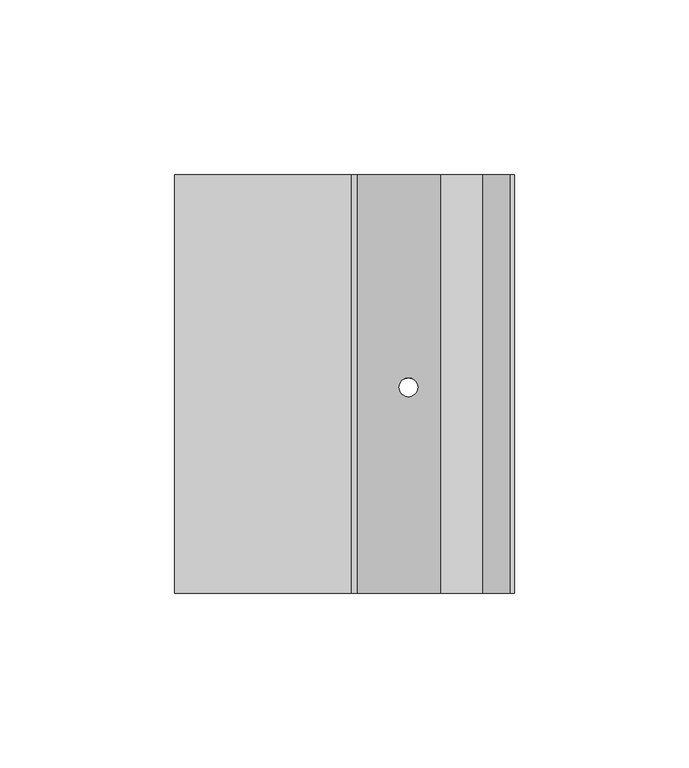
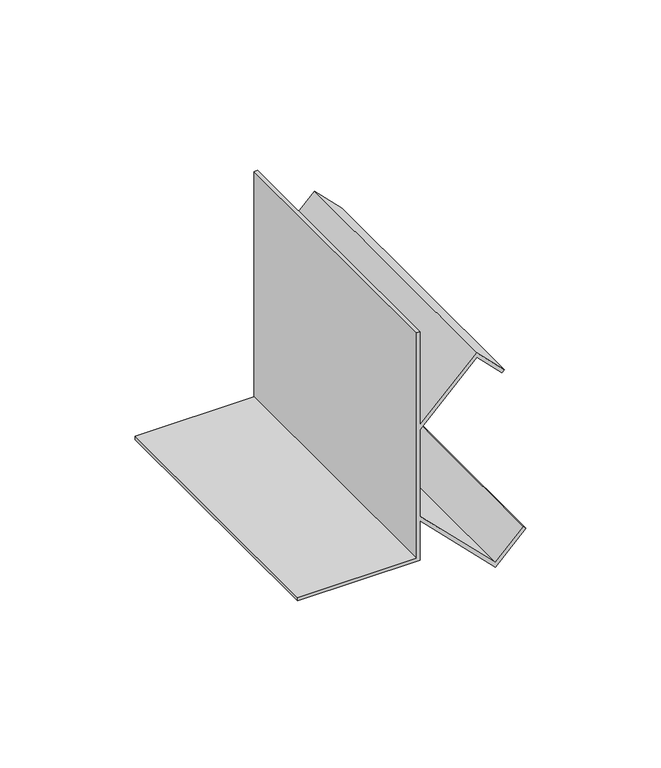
"""IFC4 building model written with IfcOpenShell, lengths in millimetres: proxy geometry, Mechanical Fittings & Accessories6 : Mechanical Fittings & Accessories."""

from ifc_helpers import new_model, si_unit, frame, origin, place, context, project, spatial, polyline, ellipse_curve, source, transform, mapped, element, save
from ifc_brep_helpers import plane_surface, revolved_surface, advanced_brep


def generic_models_b129b2ce(model_context):
    return source(origin(), model_context, "Body", "AdvancedBrep", [
        advanced_brep(
        [(-10977.7433312, 8294.4963986, 4114.8), (-11028.5433312, 8294.4963986, 4114.8), (-11028.5433312, 8294.4963986, 4113.3117188), (-10976.25505, 8294.4963986, 4113.3117188), (-10976.25505, 8294.4963986, 4131.1383509), (-10944.145289, 8294.4963986, 4099.0285899), (-10931.1663177, 8294.4963986, 4112.0075612), (-10932.2186914, 8294.4963986, 4113.059935), (-10944.145289, 8294.4963986, 4101.1333374), (-10976.25505, 8294.4963986, 4133.2430984), (-10976.25505, 8294.4963986, 4172.2761118), (-10952.082789, 8294.4963986, 4196.4483729), (-10941.3468164, 8294.4963986, 4185.7124003), (-10940.2944427, 8294.4963986, 4186.7647741), (-10952.082789, 8294.4963986, 4198.5531204), (-10976.25505, 8294.4963986, 4174.3808594), (-10976.25505, 8294.4963986, 4216.4), (-10977.7433312, 8294.4963986, 4216.4), (-10977.7433312, 8414.4645457, 4114.8), (-10977.7433312, 8414.4645457, 4216.4), (-10976.25505, 8414.4645457, 4216.4), (-10976.25505, 8414.4645457, 4174.3808594), (-10952.082789, 8414.4645457, 4198.5531204), (-10940.2944427, 8414.4645457, 4186.7647741), (-10941.3468164, 8414.4645457, 4185.7124003), (-10952.082789, 8414.4645457, 4196.4483729), (-10976.25505, 8414.4645457, 4172.2761118), (-10976.25505, 8414.4645457, 4133.2430984), (-10944.145289, 8414.4645457, 4101.1333374), (-10932.2186914, 8414.4645457, 4113.059935), (-10931.1663177, 8414.4645457, 4112.0075612), (-10944.145289, 8414.4645457, 4099.0285899), (-10976.25505, 8414.4645457, 4131.1383509), (-10976.25505, 8414.4645457, 4113.3117188), (-11028.5433312, 8414.4645457, 4113.3117188), (-11028.5433312, 8414.4645457, 4114.8), (-10964.1411396, 8353.5191481, 4119.0244406), (-10958.8017728, 8353.5191481, 4113.6850737), (-10958.8017728, 8353.5191481, 4115.7898213), (-10964.1411396, 8353.5191481, 4121.1291881), (-10964.1411396, 8353.5191481, 4184.3900222), (-10958.8017728, 8353.5191481, 4189.729389), (-10958.8017728, 8353.5191481, 4191.8341365), (-10964.1411396, 8353.5191481, 4186.4947697)],
        [
            (0, 1),
            (1, 2),
            (2, 3),
            (3, 4),
            (4, 5),
            (5, 6),
            (6, 7),
            (7, 8),
            (8, 9),
            (9, 10),
            (10, 11),
            (11, 12),
            (12, 13),
            (13, 14),
            (14, 15),
            (15, 16),
            (16, 17),
            (17, 0),
            (18, 19),
            (19, 20),
            (20, 21),
            (21, 22),
            (22, 23),
            (23, 24),
            (24, 25),
            (25, 26),
            (26, 27),
            (27, 28),
            (28, 29),
            (29, 30),
            (30, 31),
            (31, 32),
            (32, 33),
            (33, 34),
            (34, 35),
            (35, 18),
            (0, 18),
            (35, 1),
            (34, 2),
            (33, 3),
            (32, 4),
            (31, 5),
            (36, 37, ellipse_curve(frame((-10961.4714562, 8353.5191481, 4116.3547571), z_axis=(0.7071067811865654, 0.0, 0.7071067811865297), x_axis=(-0.7071067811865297, 0.0, 0.7071067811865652)), 3.7755025, 2.6696834)),
            (37, 36, ellipse_curve(frame((-10961.4714562, 8353.5191481, 4116.3547571), z_axis=(0.7071067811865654, 0.0, 0.7071067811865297), x_axis=(-0.7071067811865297, 0.0, 0.7071067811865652)), 3.7755025, 2.6696834)),
            (30, 6),
            (29, 7),
            (28, 8),
            (27, 9),
            (38, 39, ellipse_curve(frame((-10961.4714562, 8353.5191481, 4118.4595047), z_axis=(-0.7071067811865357, 0.0, -0.7071067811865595), x_axis=(-0.7071067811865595, 0.0, 0.7071067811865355)), 3.7755025, 2.6696834)),
            (39, 38, ellipse_curve(frame((-10961.4714562, 8353.5191481, 4118.4595047), z_axis=(-0.7071067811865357, 0.0, -0.7071067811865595), x_axis=(-0.7071067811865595, 0.0, 0.7071067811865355)), 3.7755025, 2.6696834)),
            (26, 10),
            (25, 11),
            (40, 41, ellipse_curve(frame((-10961.4714562, 8353.5191481, 4187.0597056), z_axis=(-0.7071067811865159, 0.0, 0.7071067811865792), x_axis=(0.7071067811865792, 0.0, 0.7071067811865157)), 3.7755025, 2.6696834)),
            (41, 40, ellipse_curve(frame((-10961.4714562, 8353.5191481, 4187.0597056), z_axis=(-0.7071067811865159, 0.0, 0.7071067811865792), x_axis=(0.7071067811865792, 0.0, 0.7071067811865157)), 3.7755025, 2.6696834)),
            (24, 12),
            (23, 13),
            (22, 14),
            (21, 15),
            (42, 43, ellipse_curve(frame((-10961.4714562, 8353.5191481, 4189.1644531), z_axis=(0.7071067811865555, 0.0, -0.7071067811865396), x_axis=(0.7071067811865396, 0.0, 0.7071067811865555)), 3.7755025, 2.6696834)),
            (43, 42, ellipse_curve(frame((-10961.4714562, 8353.5191481, 4189.1644531), z_axis=(0.7071067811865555, 0.0, -0.7071067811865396), x_axis=(0.7071067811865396, 0.0, 0.7071067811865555)), 3.7755025, 2.6696834)),
            (20, 16),
            (19, 17),
            (36, 39),
            (38, 37),
            (40, 43),
            (42, 41),
        ],
        [
            plane_surface(frame((-11028.5433312, 8294.4963986, 4114.8), z_axis=(0.0, -1.0, 0.0), x_axis=(-1.0, 0.0, 0.0))),
            plane_surface(frame((-11028.5433312, 8414.4645457, 4114.8), z_axis=(0.0, 1.0, 0.0), x_axis=(1.0, 0.0, 0.0))),
            plane_surface(frame((-10977.7433312, 8294.4963986, 4114.8), z_axis=(0.0, 0.0, 1.0), x_axis=(0.0, 1.0, 0.0))),
            plane_surface(frame((-11028.5433312, 8294.4963986, 4114.8), z_axis=(-1.0, 0.0, 0.0), x_axis=(0.0, 1.0, 0.0))),
            plane_surface(frame((-11028.5433312, 8294.4963986, 4113.3117188), z_axis=(0.0, 0.0, -1.0), x_axis=(0.0, 1.0, 0.0))),
            plane_surface(frame((-10976.25505, 8294.4963986, 4113.3117188), z_axis=(1.0, 0.0, 0.0), x_axis=(0.0, 1.0, 0.0))),
            plane_surface(frame((-10976.25505, 8294.4963986, 4131.1383509), z_axis=(-0.7071067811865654, 0.0, -0.7071067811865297), x_axis=(0.0, 1.0, 0.0))),
            plane_surface(frame((-10944.145289, 8294.4963986, 4099.0285899), z_axis=(0.7071067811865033, 0.0, -0.7071067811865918), x_axis=(0.0, 1.0, 0.0))),
            plane_surface(frame((-10931.1663177, 8294.4963986, 4112.0075612), z_axis=(0.7071067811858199, 0.0, 0.7071067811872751), x_axis=(0.0, 1.0, 0.0))),
            plane_surface(frame((-10932.2186914, 8294.4963986, 4113.059935), z_axis=(-0.7071067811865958, 0.0, 0.7071067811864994), x_axis=(0.0, 1.0, 0.0))),
            plane_surface(frame((-10944.145289, 8294.4963986, 4101.1333374), z_axis=(0.7071067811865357, 0.0, 0.7071067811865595), x_axis=(0.0, 1.0, 0.0))),
            plane_surface(frame((-10976.25505, 8294.4963986, 4133.2430984), z_axis=(1.0, 0.0, 0.0), x_axis=(0.0, 1.0, 0.0))),
            plane_surface(frame((-10976.25505, 8294.4963986, 4172.2761118), z_axis=(0.7071067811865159, 0.0, -0.7071067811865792), x_axis=(0.0, 1.0, 0.0))),
            plane_surface(frame((-10952.082789, 8294.4963986, 4196.4483729), z_axis=(-0.7071067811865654, 0.0, -0.7071067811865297), x_axis=(0.0, 1.0, 0.0))),
            plane_surface(frame((-10941.3468164, 8294.4963986, 4185.7124003), z_axis=(0.7071067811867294, 0.0, -0.7071067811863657), x_axis=(0.0, 1.0, 0.0))),
            plane_surface(frame((-10940.2944427, 8294.4963986, 4186.7647741), z_axis=(0.7071067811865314, 0.0, 0.7071067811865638), x_axis=(0.0, 1.0, 0.0))),
            plane_surface(frame((-10952.082789, 8294.4963986, 4198.5531204), z_axis=(-0.7071067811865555, 0.0, 0.7071067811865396), x_axis=(0.0, 1.0, 0.0))),
            plane_surface(frame((-10976.25505, 8294.4963986, 4174.3808594), z_axis=(1.0, 0.0, 0.0), x_axis=(0.0, 1.0, 0.0))),
            plane_surface(frame((-10976.25505, 8294.4963986, 4216.4), z_axis=(0.0, 0.0, 1.0), x_axis=(0.0, 1.0, 0.0))),
            plane_surface(frame((-10977.7433312, 8294.4963986, 4216.4), z_axis=(-1.0, 0.0, 0.0), x_axis=(0.0, 1.0, 0.0))),
            revolved_surface(polyline([(-10958.801772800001, 8353.5191481, 4121.129188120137), (-10958.801772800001, 8353.5191481, 4113.685073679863)]), (-10961.4714562, 8353.5191481, 4097.2034211), (0.0, 0.0, 1.0)),
            revolved_surface(polyline([(-10958.801772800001, 8353.5191481, 4191.834136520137), (-10958.801772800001, 8353.5191481, 4184.390022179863)]), (-10961.4714562, 8353.5191481, 4097.2034211), (0.0, 0.0, 1.0)),
        ],
        [
            (0, [[1, 2, 3, 4, 5, 6, 7, 8, 9, 10, 11, 12, 13, 14, 15, 16, 17, 18]]),
            (1, [[19, 20, 21, 22, 23, 24, 25, 26, 27, 28, 29, 30, 31, 32, 33, 34, 35, 36]]),
            (2, [[-1, 37, -36, 38]]),
            (3, [[-2, -38, -35, 39]]),
            (4, [[-3, -39, -34, 40]]),
            (5, [[-4, -40, -33, 41]]),
            (6, [[-5, -41, -32, 42], [43, 44]]),
            (7, [[-6, -42, -31, 45]]),
            (8, [[-7, -45, -30, 46]]),
            (9, [[-8, -46, -29, 47]]),
            (10, [[-9, -47, -28, 48], [49, 50]]),
            (11, [[-10, -48, -27, 51]]),
            (12, [[-11, -51, -26, 52], [53, 54]]),
            (13, [[-12, -52, -25, 55]]),
            (14, [[-13, -55, -24, 56]]),
            (15, [[-14, -56, -23, 57]]),
            (16, [[-15, -57, -22, 58], [59, 60]]),
            (17, [[-16, -58, -21, 61]]),
            (18, [[-17, -61, -20, 62]]),
            (19, [[-18, -62, -19, -37]]),
            (20, [[63, -49, 64, -43]]),
            (21, [[65, -59, 66, -53]]),
            (20, [[-63, -44, -64, -50]]),
            (21, [[-65, -54, -66, -60]]),
        ],
    ),
    ])


if __name__ == "__main__":
    model = new_model("IFC4")
    model_context = context("Model", 3, world=origin())
    ifc_project = project(units=[si_unit("LENGTHUNIT", "METRE", prefix="MILLI")], contexts=[model_context])
    site = spatial("IfcSite", under=ifc_project)
    building = spatial("IfcBuilding", under=site)
    placement = place(None, origin())
    generic_models_shape = generic_models_b129b2ce(model_context)
    element("IfcBuildingElementProxy", 1, Name="Mechanical Fittings & Accessories6 : Mechanical Fittings & Accessories", ObjectType="Mechanical Fittings & Accessories6 : Mechanical Fittings & Accessories", at=placement, inside=building, context=model_context, shape_type="MappedRepresentation", body=[
        mapped(generic_models_shape, transform((0.0, 0.0, 0.0), x_axis=(1.0, 0.0, 0.0), y_axis=(0.0, 1.0, 0.0), z_axis=(0.0, 0.0, 1.0))),
    ])
    save(model, "model.ifc")
